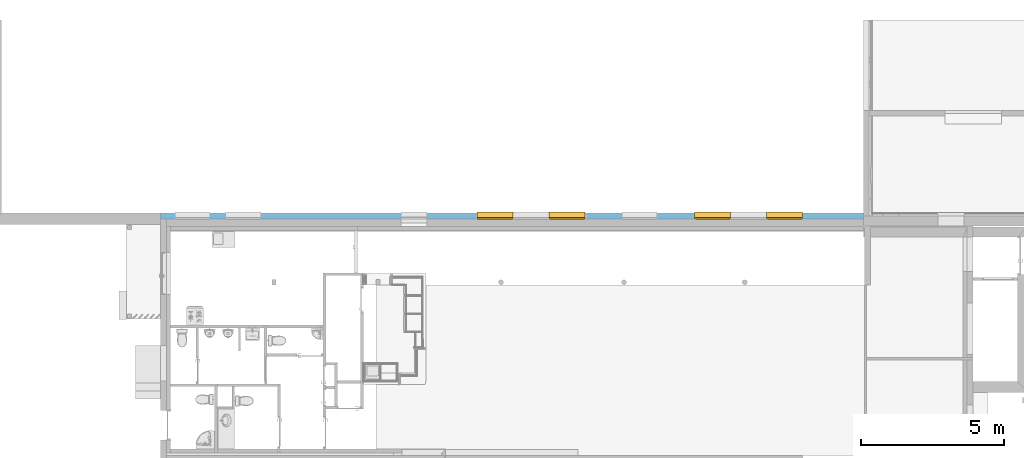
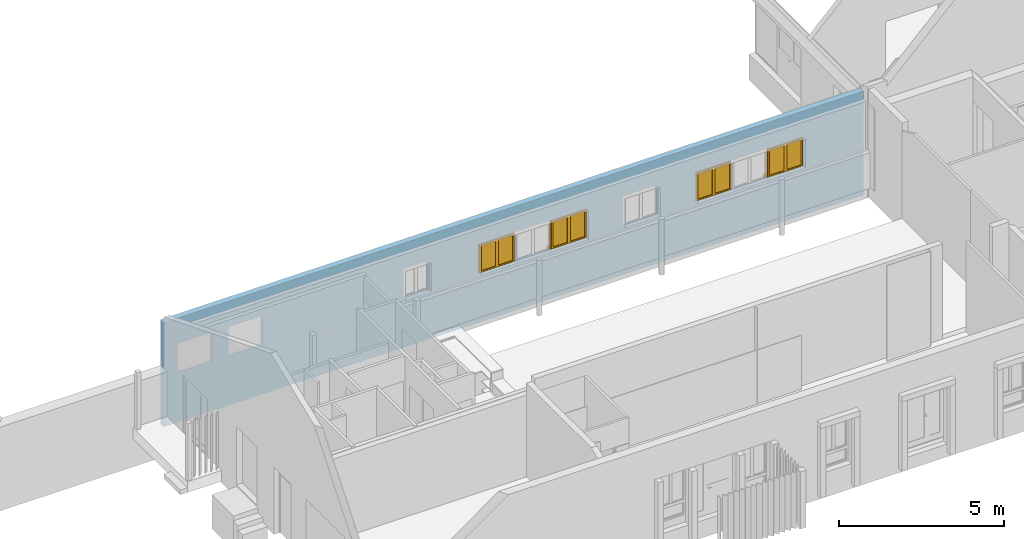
# One storey, part 10 of 34: 4 windows, 16 openings, plus 1 element that does not belong to this part.
"""IFC2X3 building model written with IfcOpenShell, lengths in metres."""

from ifc_helpers import new_model, entity, si_unit, converted_unit, derived_unit, money_unit, direction, frame, origin_with_axes, origin_2d_with_axis, place, context, subcontext, project, spatial, polyline, rectangle, outline, extrude, clip, halfspace, open_shell, faceted_brep, surface_model, source, transform, mapped, material, layer, layer_set, layer_usage, type_object, element, fill, save


model = new_model("IFC2X3")

# Units and contexts
model_context = context("Model", 3, precision=1e-05, world=origin_with_axes(), true_north=direction((0.0, 1.0)))
body_context = subcontext(model_context, "Body", "Model", "MODEL_VIEW")
ifc_project = project(units=[si_unit("LENGTHUNIT", "METRE"), si_unit("AREAUNIT", "SQUARE_METRE"), si_unit("VOLUMEUNIT", "CUBIC_METRE"), converted_unit("PLANEANGLEUNIT", "DEGREE", entity("IfcPlaneAngleMeasure", 0.0174532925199), si_unit("PLANEANGLEUNIT", "RADIAN"), dimensions=[0, 0, 0, 0, 0, 0, 0]), money_unit("CHF"), converted_unit("TIMEUNIT", "Year", entity("IfcTimeMeasure", 31556926.0), si_unit("TIMEUNIT", "SECOND"), dimensions=[0, 0, 1, 0, 0, 0, 0]), si_unit("MASSUNIT", "GRAM", prefix="KILO"), si_unit("THERMODYNAMICTEMPERATUREUNIT", "DEGREE_CELSIUS"), si_unit("LUMINOUSINTENSITYUNIT", "LUMEN"), si_unit("ENERGYUNIT", "JOULE", prefix="MEGA"), derived_unit("THERMALCONDUCTANCEUNIT", [(si_unit("POWERUNIT", "WATT"), 1), (si_unit("LENGTHUNIT", "METRE"), -1), (si_unit("THERMODYNAMICTEMPERATUREUNIT", "KELVIN"), -1)]), derived_unit("SPECIFICHEATCAPACITYUNIT", [(si_unit("ENERGYUNIT", "JOULE"), 1), (si_unit("MASSUNIT", "GRAM", prefix="KILO"), -1), (si_unit("THERMODYNAMICTEMPERATUREUNIT", "KELVIN"), -1)]), derived_unit("MASSDENSITYUNIT", [(si_unit("MASSUNIT", "GRAM", prefix="KILO"), 1), (si_unit("VOLUMEUNIT", "CUBIC_METRE"), -1)])], contexts=[model_context])

# Site, building, storey
site_placement = place(None, origin_with_axes())
site = spatial("IfcSite", under=ifc_project, at=site_placement, Name="Site", CompositionType="ELEMENT")
building_placement = place(site_placement, origin_with_axes())
building = spatial("IfcBuilding", under=site, at=building_placement, Name="Bâtiment", CompositionType="ELEMENT")
storey_placement = place(building_placement, origin_with_axes())
storey = spatial("IfcBuildingStorey", under=building, at=storey_placement, Name="RDC", CompositionType="ELEMENT", Elevation=-5.32907e-15)

# Wall, openings, windows
ifc_material = material(Name="Diagonales 1167258944")
ifc_layer = layer(ifc_material, 0.2, ventilated="UNKNOWN")
ifc_layer_set = layer_set([ifc_layer], Name="Diagonales 1167258944 0.2")
ifc_layer_usage = layer_usage(ifc_layer_set, "AXIS2", "NEGATIVE", 0.0)
wall_type = type_object("IfcWallType", Name="Diagonales 1167258944 200", PredefinedType="NOTDEFINED")
wall_placement = place(storey_placement, frame((1667.41729001, 190.70004191, -0.0599999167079), z_axis=(0.0, 0.0, 1.0), x_axis=(1.0, 0.0, 0.0)))
wall = element("IfcWallStandardCase", 1, at=wall_placement, inside=storey, type_object=wall_type, material=ifc_layer_usage, Name="Mur-002", context=body_context, shape_type="Clipping", body=[
    clip(extrude(outline(polyline([(0.0, -0.2), (24.52, -0.2), (24.52, 0.0), (0.0, 0.0), (0.0, -0.2)])), origin_with_axes(), (0.0, 0.0, 1.0), 3.86), halfspace(frame((0.0, 1.37507086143, 3.43767715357), z_axis=(0.0, -0.371390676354, -0.928476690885), x_axis=(0.0, 0.928476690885, -0.371390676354)), True)),
])
opening_1_placement = place(wall_placement, frame((2.885, 0.0, 1.82999991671), z_axis=(0.0, 0.0, 1.0), x_axis=(1.0, 0.0, 0.0)))
element("IfcOpeningElement", 2, at=opening_1_placement, cuts=wall, Name="Fen-003", context=body_context, shape_type="SweptSolid", body=[
    extrude(rectangle(XDim=1.23, YDim=1.08, at=origin_2d_with_axis()), frame((0.0, -0.15, 0.54), z_axis=(0.0, -1.0, 0.0), x_axis=(-1.0, 0.0, 0.0)), (0.0, 0.0, -1.0), 0.35),
    extrude(rectangle(XDim=1.23, YDim=1.08, at=origin_2d_with_axis()), frame((0.0, -0.15, 0.54), z_axis=(0.0, 1.0, 0.0), x_axis=(-1.0, 0.0, 0.0)), (0.0, 0.0, -1.0), 0.25),
    extrude(rectangle(XDim=1.23, YDim=0.1, at=origin_2d_with_axis()), frame((0.0, -0.185, -0.05), z_axis=(0.0, -1.0, 0.0), x_axis=(-1.0, 0.0, 0.0)), (0.0, 0.0, -1.0), 0.235),
])
opening_2_placement = place(wall_placement, frame((11.625, 0.0, 1.82999991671), z_axis=(0.0, 0.0, 1.0), x_axis=(1.0, 0.0, 0.0)))
element("IfcOpeningElement", 3, at=opening_2_placement, cuts=wall, Name="Fen-003", context=body_context, shape_type="SweptSolid", body=[
    extrude(rectangle(XDim=1.23, YDim=1.08, at=origin_2d_with_axis()), frame((0.0, -0.15, 0.54), z_axis=(0.0, -1.0, 0.0), x_axis=(-1.0, 0.0, 0.0)), (0.0, 0.0, -1.0), 0.35),
    extrude(rectangle(XDim=1.23, YDim=1.08, at=origin_2d_with_axis()), frame((0.0, -0.15, 0.54), z_axis=(0.0, 1.0, 0.0), x_axis=(-1.0, 0.0, 0.0)), (0.0, 0.0, -1.0), 0.25),
    extrude(rectangle(XDim=1.23, YDim=0.1, at=origin_2d_with_axis()), frame((0.0, -0.185, -0.05), z_axis=(0.0, -1.0, 0.0), x_axis=(-1.0, 0.0, 0.0)), (0.0, 0.0, -1.0), 0.235),
])
opening_3_placement = place(wall_placement, frame((14.2023151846, 0.0, 1.82999991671), z_axis=(0.0, 0.0, 1.0), x_axis=(1.0, 0.0, 0.0)))
element("IfcOpeningElement", 4, at=opening_3_placement, cuts=wall, Name="Fen-004", context=body_context, shape_type="SweptSolid", body=[
    extrude(rectangle(XDim=1.30821012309, YDim=1.08, at=origin_2d_with_axis()), frame((0.0, -0.15, 0.54), z_axis=(0.0, -1.0, 0.0), x_axis=(-1.0, 0.0, 0.0)), (0.0, 0.0, -1.0), 0.35),
    extrude(rectangle(XDim=1.30821012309, YDim=1.08, at=origin_2d_with_axis()), frame((0.0, -0.15, 0.54), z_axis=(0.0, 1.0, 0.0), x_axis=(-1.0, 0.0, 0.0)), (0.0, 0.0, -1.0), 0.25),
    extrude(rectangle(XDim=1.30821012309, YDim=0.1, at=origin_2d_with_axis()), frame((0.0, -0.185, -0.05), z_axis=(0.0, -1.0, 0.0), x_axis=(-1.0, 0.0, 0.0)), (0.0, 0.0, -1.0), 0.235),
])
opening_4_placement = place(wall_placement, frame((16.705, 0.0, 1.82999991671), z_axis=(0.0, 0.0, 1.0), x_axis=(1.0, 0.0, 0.0)))
element("IfcOpeningElement", 5, at=opening_4_placement, cuts=wall, Name="Fen-005", context=body_context, shape_type="SweptSolid", body=[
    extrude(rectangle(XDim=1.23, YDim=1.08, at=origin_2d_with_axis()), frame((0.0, -0.15, 0.54), z_axis=(0.0, -1.0, 0.0), x_axis=(-1.0, 0.0, 0.0)), (0.0, 0.0, -1.0), 0.35),
    extrude(rectangle(XDim=1.23, YDim=1.08, at=origin_2d_with_axis()), frame((0.0, -0.15, 0.54), z_axis=(0.0, 1.0, 0.0), x_axis=(-1.0, 0.0, 0.0)), (0.0, 0.0, -1.0), 0.25),
    extrude(rectangle(XDim=1.23, YDim=0.1, at=origin_2d_with_axis()), frame((0.0, -0.185, -0.05), z_axis=(0.0, -1.0, 0.0), x_axis=(-1.0, 0.0, 0.0)), (0.0, 0.0, -1.0), 0.235),
])
opening_5_placement = place(wall_placement, frame((19.245, 0.0, 1.83999991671), z_axis=(0.0, 0.0, 1.0), x_axis=(1.0, 0.0, 0.0)))
element("IfcOpeningElement", 6, at=opening_5_placement, cuts=wall, Name="Fen-006", context=body_context, shape_type="SweptSolid", body=[
    extrude(rectangle(XDim=1.23, YDim=1.08, at=origin_2d_with_axis()), frame((0.0, -0.15, 0.54), z_axis=(0.0, -1.0, 0.0), x_axis=(-1.0, 0.0, 0.0)), (0.0, 0.0, -1.0), 0.35),
    extrude(rectangle(XDim=1.23, YDim=1.08, at=origin_2d_with_axis()), frame((0.0, -0.15, 0.54), z_axis=(0.0, 1.0, 0.0), x_axis=(-1.0, 0.0, 0.0)), (0.0, 0.0, -1.0), 0.25),
    extrude(rectangle(XDim=1.23, YDim=0.1, at=origin_2d_with_axis()), frame((0.0, -0.185, -0.05), z_axis=(0.0, -1.0, 0.0), x_axis=(-1.0, 0.0, 0.0)), (0.0, 0.0, -1.0), 0.235),
])
opening_6_placement = place(wall_placement, frame((21.785, 0.0, 1.82999991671), z_axis=(0.0, 0.0, 1.0), x_axis=(1.0, 0.0, 0.0)))
element("IfcOpeningElement", 7, at=opening_6_placement, cuts=wall, Name="Fen-007", context=body_context, shape_type="SweptSolid", body=[
    extrude(rectangle(XDim=1.23, YDim=1.08, at=origin_2d_with_axis()), frame((0.0, -0.15, 0.54), z_axis=(0.0, -1.0, 0.0), x_axis=(-1.0, 0.0, 0.0)), (0.0, 0.0, -1.0), 0.35),
    extrude(rectangle(XDim=1.23, YDim=1.08, at=origin_2d_with_axis()), frame((0.0, -0.15, 0.54), z_axis=(0.0, 1.0, 0.0), x_axis=(-1.0, 0.0, 0.0)), (0.0, 0.0, -1.0), 0.25),
    extrude(rectangle(XDim=1.23, YDim=0.1, at=origin_2d_with_axis()), frame((0.0, -0.185, -0.05), z_axis=(0.0, -1.0, 0.0), x_axis=(-1.0, 0.0, 0.0)), (0.0, 0.0, -1.0), 0.235),
])
opening_7_placement = place(wall_placement, frame((1.115, 0.0, 1.82999991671), z_axis=(0.0, 0.0, 1.0), x_axis=(1.0, 0.0, 0.0)))
element("IfcOpeningElement", 8, at=opening_7_placement, cuts=wall, Name="Fen-003", context=body_context, shape_type="SweptSolid", body=[
    extrude(rectangle(XDim=1.23, YDim=1.08, at=origin_2d_with_axis()), frame((0.0, -0.15, 0.54), z_axis=(0.0, -1.0, 0.0), x_axis=(-1.0, 0.0, 0.0)), (0.0, 0.0, -1.0), 0.35),
    extrude(rectangle(XDim=1.23, YDim=1.08, at=origin_2d_with_axis()), frame((0.0, -0.15, 0.54), z_axis=(0.0, 1.0, 0.0), x_axis=(-1.0, 0.0, 0.0)), (0.0, 0.0, -1.0), 0.25),
    extrude(rectangle(XDim=1.23, YDim=0.1, at=origin_2d_with_axis()), frame((0.0, -0.185, -0.05), z_axis=(0.0, -1.0, 0.0), x_axis=(-1.0, 0.0, 0.0)), (0.0, 0.0, -1.0), 0.235),
])
opening_8_placement = place(wall_placement, frame((12.9249202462, 0.0, 1.82999991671), z_axis=(0.0, 0.0, 1.0), x_axis=(1.0, 0.0, 0.0)))
element("IfcOpeningElement", 9, at=opening_8_placement, cuts=wall, Name="Fen-003", context=body_context, shape_type="SweptSolid", body=[
    extrude(rectangle(XDim=1.257, YDim=1.08, at=origin_2d_with_axis()), frame((0.0, -0.15, 0.54), z_axis=(0.0, -1.0, 0.0), x_axis=(-1.0, 0.0, 0.0)), (0.0, 0.0, -1.0), 0.35),
    extrude(rectangle(XDim=1.257, YDim=1.08, at=origin_2d_with_axis()), frame((0.0, -0.15, 0.54), z_axis=(0.0, 1.0, 0.0), x_axis=(-1.0, 0.0, 0.0)), (0.0, 0.0, -1.0), 0.25),
    extrude(rectangle(XDim=1.257, YDim=0.1, at=origin_2d_with_axis()), frame((0.0, -0.185, -0.05), z_axis=(0.0, -1.0, 0.0), x_axis=(-1.0, 0.0, 0.0)), (0.0, 0.0, -1.0), 0.235),
])
opening_9_placement = place(wall_placement, frame((20.5155, 0.0, 1.82999991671), z_axis=(0.0, 0.0, 1.0), x_axis=(1.0, 0.0, 0.0)))
element("IfcOpeningElement", 10, at=opening_9_placement, cuts=wall, Name="Fen-003", context=body_context, shape_type="SweptSolid", body=[
    extrude(rectangle(XDim=1.257, YDim=1.08, at=origin_2d_with_axis()), frame((0.0, -0.15, 0.54), z_axis=(0.0, -1.0, 0.0), x_axis=(-1.0, 0.0, 0.0)), (0.0, 0.0, -1.0), 0.35),
    extrude(rectangle(XDim=1.257, YDim=1.08, at=origin_2d_with_axis()), frame((0.0, -0.15, 0.54), z_axis=(0.0, 1.0, 0.0), x_axis=(-1.0, 0.0, 0.0)), (0.0, 0.0, -1.0), 0.25),
    extrude(rectangle(XDim=1.257, YDim=0.1, at=origin_2d_with_axis()), frame((0.0, -0.185, -0.05), z_axis=(0.0, -1.0, 0.0), x_axis=(-1.0, 0.0, 0.0)), (0.0, 0.0, -1.0), 0.235),
])
opening_10_placement = place(wall_placement, frame((14.1819202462, 0.0, 1.82999991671), z_axis=(0.0, 0.0, 1.0), x_axis=(1.0, 0.0, 0.0)))
opening_10 = element("IfcOpeningElement", 11, at=opening_10_placement, cuts=wall, Name="Fen-003", context=body_context, shape_type="SweptSolid", body=[
    extrude(rectangle(XDim=1.257, YDim=1.08, at=origin_2d_with_axis()), frame((0.0, -0.15, 0.54), z_axis=(0.0, -1.0, 0.0), x_axis=(-1.0, 0.0, 0.0)), (0.0, 0.0, -1.0), 0.35),
    extrude(rectangle(XDim=1.257, YDim=1.08, at=origin_2d_with_axis()), frame((0.0, -0.15, 0.54), z_axis=(0.0, 1.0, 0.0), x_axis=(-1.0, 0.0, 0.0)), (0.0, 0.0, -1.0), 0.25),
    extrude(rectangle(XDim=1.257, YDim=0.1, at=origin_2d_with_axis()), frame((0.0, -0.185, -0.05), z_axis=(0.0, -1.0, 0.0), x_axis=(-1.0, 0.0, 0.0)), (0.0, 0.0, -1.0), 0.235),
])
opening_11_placement = place(wall_placement, frame((11.6679202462, 0.0, 1.82999991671), z_axis=(0.0, 0.0, 1.0), x_axis=(1.0, 0.0, 0.0)))
opening_11 = element("IfcOpeningElement", 12, at=opening_11_placement, cuts=wall, Name="Fen-003", context=body_context, shape_type="SweptSolid", body=[
    extrude(rectangle(XDim=1.257, YDim=1.08, at=origin_2d_with_axis()), frame((0.0, -0.15, 0.54), z_axis=(0.0, -1.0, 0.0), x_axis=(-1.0, 0.0, 0.0)), (0.0, 0.0, -1.0), 0.35),
    extrude(rectangle(XDim=1.257, YDim=1.08, at=origin_2d_with_axis()), frame((0.0, -0.15, 0.54), z_axis=(0.0, 1.0, 0.0), x_axis=(-1.0, 0.0, 0.0)), (0.0, 0.0, -1.0), 0.25),
    extrude(rectangle(XDim=1.257, YDim=0.1, at=origin_2d_with_axis()), frame((0.0, -0.185, -0.05), z_axis=(0.0, -1.0, 0.0), x_axis=(-1.0, 0.0, 0.0)), (0.0, 0.0, -1.0), 0.235),
])
opening_12_placement = place(wall_placement, frame((21.7725, 0.0, 1.82999991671), z_axis=(0.0, 0.0, 1.0), x_axis=(1.0, 0.0, 0.0)))
opening_12 = element("IfcOpeningElement", 13, at=opening_12_placement, cuts=wall, Name="Fen-003", context=body_context, shape_type="SweptSolid", body=[
    extrude(rectangle(XDim=1.257, YDim=1.08, at=origin_2d_with_axis()), frame((0.0, -0.15, 0.54), z_axis=(0.0, -1.0, 0.0), x_axis=(-1.0, 0.0, 0.0)), (0.0, 0.0, -1.0), 0.35),
    extrude(rectangle(XDim=1.257, YDim=1.08, at=origin_2d_with_axis()), frame((0.0, -0.15, 0.54), z_axis=(0.0, 1.0, 0.0), x_axis=(-1.0, 0.0, 0.0)), (0.0, 0.0, -1.0), 0.25),
    extrude(rectangle(XDim=1.257, YDim=0.1, at=origin_2d_with_axis()), frame((0.0, -0.185, -0.05), z_axis=(0.0, -1.0, 0.0), x_axis=(-1.0, 0.0, 0.0)), (0.0, 0.0, -1.0), 0.235),
])
opening_13_placement = place(wall_placement, frame((19.2585, 0.0, 1.82999991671), z_axis=(0.0, 0.0, 1.0), x_axis=(1.0, 0.0, 0.0)))
opening_13 = element("IfcOpeningElement", 14, at=opening_13_placement, cuts=wall, Name="Fen-003", context=body_context, shape_type="SweptSolid", body=[
    extrude(rectangle(XDim=1.257, YDim=1.08, at=origin_2d_with_axis()), frame((0.0, -0.15, 0.54), z_axis=(0.0, -1.0, 0.0), x_axis=(-1.0, 0.0, 0.0)), (0.0, 0.0, -1.0), 0.35),
    extrude(rectangle(XDim=1.257, YDim=1.08, at=origin_2d_with_axis()), frame((0.0, -0.15, 0.54), z_axis=(0.0, 1.0, 0.0), x_axis=(-1.0, 0.0, 0.0)), (0.0, 0.0, -1.0), 0.25),
    extrude(rectangle(XDim=1.257, YDim=0.1, at=origin_2d_with_axis()), frame((0.0, -0.185, -0.05), z_axis=(0.0, -1.0, 0.0), x_axis=(-1.0, 0.0, 0.0)), (0.0, 0.0, -1.0), 0.235),
])
opening_14_placement = place(wall_placement, frame((8.84769470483, 0.0, 1.82999991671), z_axis=(0.0, 0.0, 1.0), x_axis=(1.0, 0.0, 0.0)))
element("IfcOpeningElement", 15, at=opening_14_placement, cuts=wall, Name="Fen-003", context=body_context, shape_type="SweptSolid", body=[
    extrude(rectangle(XDim=0.91, YDim=1.08, at=origin_2d_with_axis()), frame((0.0, -0.15, 0.54), z_axis=(0.0, 1.0, 0.0), x_axis=(-1.0, 0.0, 0.0)), (0.0, 0.0, 1.0), 0.35),
    extrude(rectangle(XDim=0.91, YDim=1.08, at=origin_2d_with_axis()), frame((0.0, -0.15, 0.54), z_axis=(0.0, -1.0, 0.0), x_axis=(-1.0, 0.0, 0.0)), (0.0, 0.0, 1.0), 0.25),
    extrude(rectangle(XDim=0.91, YDim=0.1, at=origin_2d_with_axis()), frame((0.0, -0.185, -0.05), z_axis=(0.0, 1.0, 0.0), x_axis=(-1.0, 0.0, 0.0)), (0.0, 0.0, 1.0), 0.235),
])
opening_15_placement = place(wall_placement, frame((8.84769470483, 0.0, 1.77), z_axis=(0.0, 0.0, 1.0), x_axis=(1.0, 0.0, 0.0)))
element("IfcOpeningElement", 16, at=opening_15_placement, cuts=wall, Name="Por-005", context=body_context, shape_type="SweptSolid", body=[
    extrude(rectangle(XDim=0.91, YDim=1.1, at=origin_2d_with_axis()), frame((0.0, -0.1, 0.55), z_axis=(0.0, 1.0, 0.0), x_axis=(-1.0, 0.0, 0.0)), (0.0, 0.0, 1.0), 0.3),
    extrude(rectangle(XDim=0.91, YDim=1.1, at=origin_2d_with_axis()), frame((0.0, -0.1, 0.55), z_axis=(0.0, -1.0, 0.0), x_axis=(-1.0, 0.0, 0.0)), (0.0, 0.0, 1.0), 0.3),
])
opening_16_placement = place(wall_placement, frame((8.84769470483, 0.0, 1.77), z_axis=(0.0, 0.0, 1.0), x_axis=(1.0, 0.0, 0.0)))
element("IfcOpeningElement", 17, at=opening_16_placement, cuts=wall, Name="Por-005", context=body_context, shape_type="SweptSolid", body=[
    extrude(rectangle(XDim=0.91, YDim=1.1, at=origin_2d_with_axis()), frame((0.0, -0.1, 0.55), z_axis=(0.0, -1.0, 0.0), x_axis=(1.0, 0.0, 0.0)), (0.0, 0.0, -1.0), 0.3),
    extrude(rectangle(XDim=0.91, YDim=1.1, at=origin_2d_with_axis()), frame((0.0, -0.1, 0.55), z_axis=(0.0, 1.0, 0.0), x_axis=(1.0, 0.0, 0.0)), (0.0, 0.0, -1.0), 0.3),
])
window_style = type_object("IfcWindowStyle", Name="Fenêtre châssis double 25", ConstructionType="NOTDEFINED", OperationType="DOUBLE_PANEL_VERTICAL", ParameterTakesPrecedence=False, Sizeable=False)
shared_shape = source(origin_with_axes(), body_context, "Body", "SurfaceModel", [
    faceted_brep([(-0.6285, -0.015, 0.0), (-0.6285, -0.025, 0.0), (0.6285, -0.025, 0.0), (0.6285, -0.015, 0.0), (-0.6285, -0.015, -0.1), (-0.6285, -0.245, -0.1), (-0.6285, -0.245, -0.01), (-0.6285, -0.025, -0.01), (0.6285, -0.025, -0.01), (0.6285, -0.245, -0.01), (0.6285, -0.245, -0.1), (0.6285, -0.015, -0.1)], [[[0, 1, 2, 3]], [[0, 4, 5, 6, 7, 1]], [[1, 7, 8, 2]], [[3, 2, 8, 9, 10, 11]], [[4, 0, 3, 11]], [[5, 4, 11, 10]], [[6, 5, 10, 9]], [[7, 6, 9, 8]]]),
    faceted_brep([(-0.6035, 0.0, 1.03), (-0.6285, 0.0, 1.03), (-0.6285, -0.05, 1.03), (-0.5785, -0.05, 1.03), (-0.5785, -0.025, 1.03), (-0.6035, -0.025, 1.03), (-0.6035, 0.0, 0.05), (-0.6285, 0.0, 0.05), (-0.6285, -0.05, 0.05), (-0.5785, -0.05, 0.05), (-0.5785, -0.025, 0.05), (-0.6035, -0.025, 0.05)], [[[0, 1, 2, 3, 4, 5]], [[6, 7, 1, 0]], [[1, 7, 8, 2]], [[2, 8, 9, 3]], [[4, 3, 9, 10]], [[10, 11, 5, 4]], [[5, 11, 6, 0]], [[11, 10, 9, 8, 7, 6]]]),
    faceted_brep([(0.5785, -0.025, 1.03), (0.5785, -0.05, 1.03), (0.6285, -0.05, 1.03), (0.6285, 0.0, 1.03), (0.6035, 0.0, 1.03), (0.6035, -0.025, 1.03), (0.5785, -0.025, 0.05), (0.5785, -0.05, 0.05), (0.6285, -0.05, 0.05), (0.6285, 0.0, 0.05), (0.6035, 0.0, 0.05), (0.6035, -0.025, 0.05)], [[[0, 1, 2, 3, 4, 5]], [[6, 7, 1, 0]], [[8, 2, 1, 7]], [[9, 3, 2, 8]], [[4, 3, 9, 10]], [[10, 11, 5, 4]], [[5, 11, 6, 0]], [[11, 10, 9, 8, 7, 6]]]),
    faceted_brep([(0.5785, -0.025, 0.05), (0.5785, -0.05, 0.05), (0.6285, -0.05, 0.05), (0.6285, 0.0, 0.05), (0.6035, 0.0, 0.05), (0.6035, -0.025, 0.05), (-0.5785, -0.025, 0.05), (-0.5785, -0.05, 0.05), (-0.6285, -0.05, 0.05), (-0.6285, -0.05, 0.0), (0.6285, -0.05, 0.0), (0.6285, 0.0, 0.0), (-0.6035, 0.0, 0.025), (0.6035, 0.0, 0.025), (-0.6285, 0.0, 0.0), (-0.6285, 0.0, 0.05), (-0.6035, 0.0, 0.05), (0.6035, -0.025, 0.025), (-0.6035, -0.025, 0.025), (-0.6035, -0.025, 0.05)], [[[0, 1, 2, 3, 4, 5]], [[6, 7, 1, 0]], [[8, 9, 10, 2, 1, 7]], [[11, 3, 2, 10]], [[12, 13, 4, 3, 11, 14, 15, 16]], [[13, 17, 5, 4]], [[5, 17, 18, 19, 6, 0]], [[19, 16, 15, 8, 7, 6]], [[15, 14, 9, 8]], [[14, 11, 10, 9]], [[12, 18, 17, 13]], [[19, 18, 12, 16]]]),
    faceted_brep([(-0.6035, 0.0, 1.03), (-0.6285, 0.0, 1.03), (-0.6285, 0.0, 1.08), (0.6285, 0.0, 1.08), (0.6285, 0.0, 1.03), (0.6035, 0.0, 1.03), (0.6035, 0.0, 1.055), (-0.6035, 0.0, 1.055), (-0.6035, -0.025, 1.03), (-0.5785, -0.025, 1.03), (-0.5785, -0.05, 1.03), (-0.6285, -0.05, 1.03), (-0.6285, -0.05, 1.08), (0.6285, -0.05, 1.08), (0.6285, -0.05, 1.03), (0.6035, -0.025, 1.03), (0.5785, -0.05, 1.03), (0.5785, -0.025, 1.03), (0.6035, -0.025, 1.055), (-0.6035, -0.025, 1.055)], [[[0, 1, 2, 3, 4, 5, 6, 7]], [[8, 9, 10, 11, 1, 0]], [[2, 1, 11, 12]], [[3, 2, 12, 13]], [[4, 3, 13, 14]], [[15, 5, 4, 14, 16, 17]], [[5, 15, 18, 6]], [[6, 18, 19, 7]], [[7, 19, 8, 0]], [[17, 9, 8, 19, 18, 15]], [[17, 16, 10, 9]], [[14, 13, 12, 11, 10, 16]]]),
    faceted_brep([(-0.5535, -0.025, 1.005), (-0.5535, 0.025, 1.005), (-0.6035, 0.025, 1.005), (-0.6035, -0.025, 1.005), (-0.5535, -0.025, 0.075), (-0.5535, 0.025, 0.075), (-0.6035, 0.025, 0.075), (-0.6035, -0.025, 0.075)], [[[0, 1, 2, 3]], [[4, 5, 1, 0]], [[1, 5, 6, 2]], [[3, 2, 6, 7]], [[0, 3, 7, 4]], [[7, 6, 5, 4]]]),
    faceted_brep([(-0.05, -0.025, 0.075), (-0.05, 0.025, 0.075), (0.0, 0.025, 0.075), (0.0, -0.025, 0.075), (-0.05, -0.025, 1.005), (-0.05, 0.025, 1.005), (0.0, 0.025, 1.005), (0.0, -0.025, 1.005)], [[[0, 1, 2, 3]], [[4, 5, 1, 0]], [[1, 5, 6, 2]], [[3, 2, 6, 7]], [[0, 3, 7, 4]], [[7, 6, 5, 4]]]),
    faceted_brep([(0.0, -0.025, 0.025), (0.0, 0.025, 0.025), (0.0, 0.025, 0.075), (0.0, -0.025, 0.075), (-0.6035, -0.025, 0.025), (-0.6035, 0.025, 0.025), (-0.6035, 0.025, 0.075), (-0.5535, 0.025, 0.075), (-0.05, 0.025, 0.075), (-0.05, -0.025, 0.075), (-0.5535, -0.025, 0.075), (-0.6035, -0.025, 0.075)], [[[0, 1, 2, 3]], [[4, 5, 1, 0]], [[1, 5, 6, 7, 8, 2]], [[3, 2, 8, 9]], [[0, 3, 9, 10, 11, 4]], [[11, 6, 5, 4]], [[10, 7, 6, 11]], [[9, 8, 7, 10]]]),
    faceted_brep([(-0.6035, -0.025, 1.055), (-0.6035, 0.025, 1.055), (-0.6035, 0.025, 1.005), (-0.6035, -0.025, 1.005), (0.0, -0.025, 1.055), (0.0, 0.025, 1.055), (0.0, 0.025, 1.005), (-0.05, 0.025, 1.005), (-0.5535, 0.025, 1.005), (-0.5535, -0.025, 1.005), (-0.05, -0.025, 1.005), (0.0, -0.025, 1.005)], [[[0, 1, 2, 3]], [[4, 5, 1, 0]], [[1, 5, 6, 7, 8, 2]], [[3, 2, 8, 9]], [[0, 3, 9, 10, 11, 4]], [[11, 6, 5, 4]], [[10, 7, 6, 11]], [[9, 8, 7, 10]]]),
    surface_model("IfcShellBasedSurfaceModel", [(-0.5535, -0.01, 0.075), (-0.05, -0.01, 0.075), (-0.05, -0.01, 1.005), (-0.5535, -0.01, 1.005)], [open_shell([[[0, 1, 2, 3]]])]),
    surface_model("IfcShellBasedSurfaceModel", [(-0.5535, 0.01, 0.075), (-0.5535, 0.01, 1.005), (-0.05, 0.01, 1.005), (-0.05, 0.01, 0.075)], [open_shell([[[0, 1, 2, 3]]])]),
    faceted_brep([(0.05, -0.025, 1.005), (0.05, 0.025, 1.005), (0.0, 0.025, 1.005), (0.0, -0.025, 1.005), (0.05, -0.025, 0.075), (0.05, 0.025, 0.075), (0.0, 0.025, 0.075), (0.0, -0.025, 0.075)], [[[0, 1, 2, 3]], [[4, 5, 1, 0]], [[1, 5, 6, 2]], [[3, 2, 6, 7]], [[0, 3, 7, 4]], [[7, 6, 5, 4]]]),
    faceted_brep([(0.5535, -0.025, 0.075), (0.5535, 0.025, 0.075), (0.6035, 0.025, 0.075), (0.6035, -0.025, 0.075), (0.5535, -0.025, 1.005), (0.5535, 0.025, 1.005), (0.6035, 0.025, 1.005), (0.6035, -0.025, 1.005)], [[[0, 1, 2, 3]], [[4, 5, 1, 0]], [[1, 5, 6, 2]], [[3, 2, 6, 7]], [[0, 3, 7, 4]], [[7, 6, 5, 4]]]),
    faceted_brep([(0.6035, -0.025, 0.025), (0.6035, 0.025, 0.025), (0.6035, 0.025, 0.075), (0.6035, -0.025, 0.075), (0.0, -0.025, 0.025), (0.0, 0.025, 0.025), (0.0, 0.025, 0.075), (0.05, 0.025, 0.075), (0.5535, 0.025, 0.075), (0.5535, -0.025, 0.075), (0.05, -0.025, 0.075), (0.0, -0.025, 0.075)], [[[0, 1, 2, 3]], [[4, 5, 1, 0]], [[1, 5, 6, 7, 8, 2]], [[3, 2, 8, 9]], [[0, 3, 9, 10, 11, 4]], [[11, 6, 5, 4]], [[10, 7, 6, 11]], [[9, 8, 7, 10]]]),
    faceted_brep([(0.0, -0.025, 1.055), (0.0, 0.025, 1.055), (0.0, 0.025, 1.005), (0.0, -0.025, 1.005), (0.6035, -0.025, 1.055), (0.6035, 0.025, 1.055), (0.6035, 0.025, 1.005), (0.5535, 0.025, 1.005), (0.05, 0.025, 1.005), (0.05, -0.025, 1.005), (0.5535, -0.025, 1.005), (0.6035, -0.025, 1.005)], [[[0, 1, 2, 3]], [[4, 5, 1, 0]], [[1, 5, 6, 7, 8, 2]], [[3, 2, 8, 9]], [[0, 3, 9, 10, 11, 4]], [[11, 6, 5, 4]], [[10, 7, 6, 11]], [[9, 8, 7, 10]]]),
    surface_model("IfcShellBasedSurfaceModel", [(0.05, -0.01, 0.075), (0.5535, -0.01, 0.075), (0.5535, -0.01, 1.005), (0.05, -0.01, 1.005)], [open_shell([[[0, 1, 2, 3]]])]),
    surface_model("IfcShellBasedSurfaceModel", [(0.05, 0.01, 0.075), (0.05, 0.01, 1.005), (0.5535, 0.01, 1.005), (0.5535, 0.01, 0.075)], [open_shell([[[0, 1, 2, 3]]])]),
])
window_1_placement = place(opening_10_placement, frame((0.6285, 0.0, 0.0), z_axis=(0.0, 0.0, 1.0), x_axis=(-1.0, 0.0, 0.0)))
window_1 = element("IfcWindow", 18, at=window_1_placement, inside=storey, type_object=window_style, Name="Fen-003", OverallHeight=1.08, OverallWidth=1.257, context=body_context, shape_type="MappedRepresentation", body=[
    mapped(shared_shape, transform((0.6285, 0.2, 0.0))),
])
fill(opening_10, window_1)
window_2_placement = place(opening_11_placement, frame((0.6285, 0.0, 0.0), z_axis=(0.0, 0.0, 1.0), x_axis=(-1.0, 0.0, 0.0)))
window_2 = element("IfcWindow", 19, at=window_2_placement, inside=storey, type_object=window_style, Name="Fen-003", OverallHeight=1.08, OverallWidth=1.257, context=body_context, shape_type="MappedRepresentation", body=[
    mapped(shared_shape, transform((0.6285, 0.2, 0.0))),
])
fill(opening_11, window_2)
window_3_placement = place(opening_12_placement, frame((0.6285, 0.0, 0.0), z_axis=(0.0, 0.0, 1.0), x_axis=(-1.0, 0.0, 0.0)))
window_3 = element("IfcWindow", 20, at=window_3_placement, inside=storey, type_object=window_style, Name="Fen-003", OverallHeight=1.08, OverallWidth=1.257, context=body_context, shape_type="MappedRepresentation", body=[
    mapped(shared_shape, transform((0.6285, 0.2, 0.0))),
])
fill(opening_12, window_3)
window_4_placement = place(opening_13_placement, frame((0.6285, 0.0, 0.0), z_axis=(0.0, 0.0, 1.0), x_axis=(-1.0, 0.0, 0.0)))
window_4 = element("IfcWindow", 21, at=window_4_placement, inside=storey, type_object=window_style, Name="Fen-003", OverallHeight=1.08, OverallWidth=1.257, context=body_context, shape_type="MappedRepresentation", body=[
    mapped(shared_shape, transform((0.6285, 0.2, 0.0))),
])
fill(opening_13, window_4)

save(model, "model.ifc")
